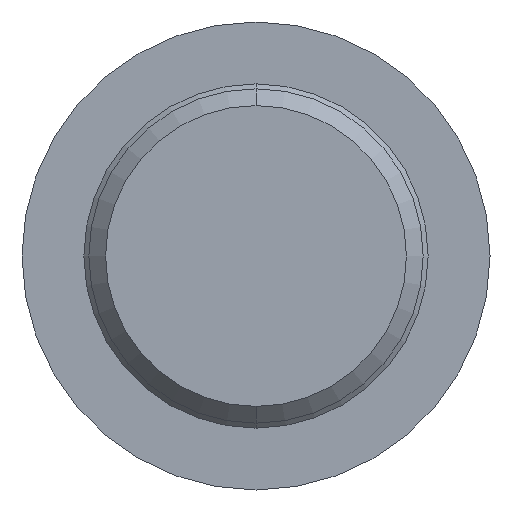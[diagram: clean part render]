
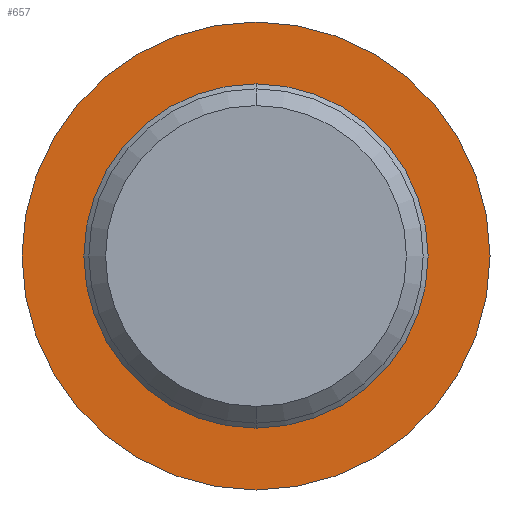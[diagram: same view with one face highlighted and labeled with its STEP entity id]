
A CAD part, front view. The second image highlights one B-rep face of the part: STEP entity #657.
In plain terms, the highlighted planar face has unit normal (0, -1, 0).
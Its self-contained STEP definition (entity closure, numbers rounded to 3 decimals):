
#7 = EDGE_CURVE ( 'NONE', #443, #407, #714, .T. ) ;
#96 = EDGE_LOOP ( 'NONE', ( #352, #646 ) ) ;
#125 = VERTEX_POINT ( 'NONE', #558 ) ;
#133 = DIRECTION ( 'NONE',  ( 0., 0., 1. ) ) ;
#140 = EDGE_LOOP ( 'NONE', ( #627, #493 ) ) ;
#146 = CARTESIAN_POINT ( 'NONE',  ( 0., 8., 0. ) ) ;
#165 = VERTEX_POINT ( 'NONE', #392 ) ;
#176 = DIRECTION ( 'NONE',  ( 0., 0., 1. ) ) ;
#321 = PLANE ( 'NONE',  #617 ) ;
#346 = CARTESIAN_POINT ( 'NONE',  ( 0., 8., 0. ) ) ;
#347 = CARTESIAN_POINT ( 'NONE',  ( 0., 8., 7. ) ) ;
#352 = ORIENTED_EDGE ( 'NONE', *, *, #7, .F. ) ;
#385 = CARTESIAN_POINT ( 'NONE',  ( 0., 8., 0. ) ) ;
#386 = AXIS2_PLACEMENT_3D ( 'NONE', #385, #625, #679 ) ;
#388 = FACE_OUTER_BOUND ( 'NONE', #96, .T. ) ;
#392 = CARTESIAN_POINT ( 'NONE',  ( 0., 8., 5.15 ) ) ;
#407 = VERTEX_POINT ( 'NONE', #455 ) ;
#431 = CIRCLE ( 'NONE', #661, 5.15 ) ;
#443 = VERTEX_POINT ( 'NONE', #347 ) ;
#455 = CARTESIAN_POINT ( 'NONE',  ( 0., 8., -7. ) ) ;
#493 = ORIENTED_EDGE ( 'NONE', *, *, #741, .T. ) ;
#515 = DIRECTION ( 'NONE',  ( 0., 1., 0. ) ) ;
#518 = EDGE_CURVE ( 'NONE', #407, #443, #557, .T. ) ;
#526 = AXIS2_PLACEMENT_3D ( 'NONE', #146, #515, #622 ) ;
#546 = EDGE_CURVE ( 'NONE', #165, #125, #725, .T. ) ;
#557 = CIRCLE ( 'NONE', #526, 7. ) ;
#558 = CARTESIAN_POINT ( 'NONE',  ( 0., 8., -5.15 ) ) ;
#560 = CARTESIAN_POINT ( 'NONE',  ( 7., 8., 0. ) ) ;
#601 = AXIS2_PLACEMENT_3D ( 'NONE', #667, #605, #133 ) ;
#605 = DIRECTION ( 'NONE',  ( 0., 1., 0. ) ) ;
#615 = FACE_BOUND ( 'NONE', #140, .T. ) ;
#617 = AXIS2_PLACEMENT_3D ( 'NONE', #560, #739, #176 ) ;
#622 = DIRECTION ( 'NONE',  ( 0., 0., 1. ) ) ;
#625 = DIRECTION ( 'NONE',  ( 0., 1., 0. ) ) ;
#627 = ORIENTED_EDGE ( 'NONE', *, *, #546, .T. ) ;
#646 = ORIENTED_EDGE ( 'NONE', *, *, #518, .F. ) ;
#652 = DIRECTION ( 'NONE',  ( 0., 0., 1. ) ) ;
#657 = ADVANCED_FACE ( 'NONE', ( #388, #615 ), #321, .F. ) ;
#661 = AXIS2_PLACEMENT_3D ( 'NONE', #346, #698, #652 ) ;
#667 = CARTESIAN_POINT ( 'NONE',  ( 0., 8., 0. ) ) ;
#679 = DIRECTION ( 'NONE',  ( 0., 0., 1. ) ) ;
#698 = DIRECTION ( 'NONE',  ( 0., 1., 0. ) ) ;
#714 = CIRCLE ( 'NONE', #601, 7. ) ;
#725 = CIRCLE ( 'NONE', #386, 5.15 ) ;
#739 = DIRECTION ( 'NONE',  ( 0., 1., 0. ) ) ;
#741 = EDGE_CURVE ( 'NONE', #125, #165, #431, .T. ) ;
